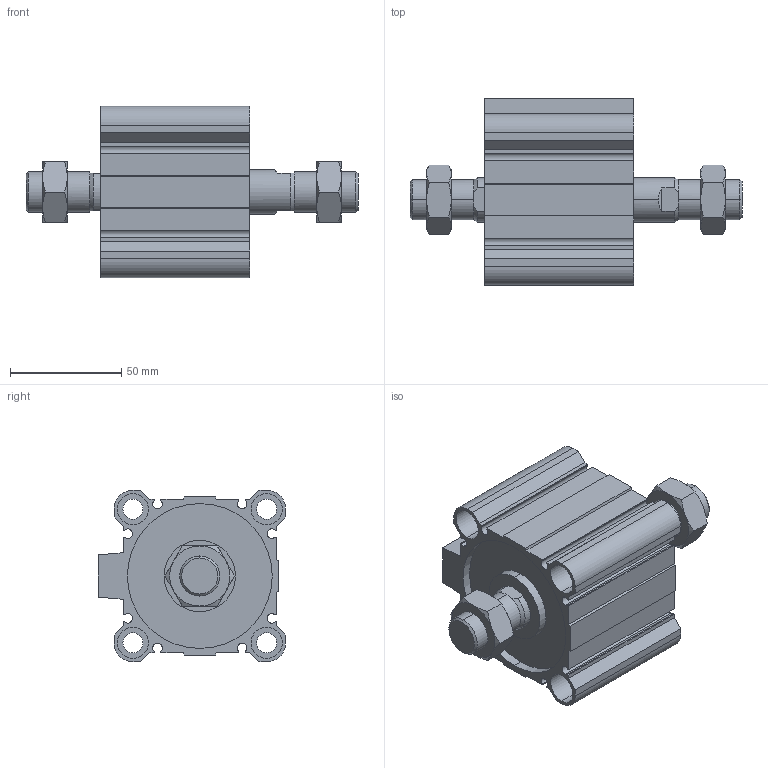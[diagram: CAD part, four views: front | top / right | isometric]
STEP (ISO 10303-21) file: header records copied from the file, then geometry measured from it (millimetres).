
FILE_DESCRIPTION (( 'STEP AP203' ), '1' );
FILE_NAME ('CCMB63-15M-P.STEP', '2020-08-10T11:49:04', ( '' ), ( '' ), 'SwSTEP 2.0', 'SolidWorks 2019', '' );
FILE_SCHEMA (( 'CONFIG_CONTROL_DESIGN' ));
Length unit declared in the file: millimetre
Products named in the file (1): CCMB63-15M-P
Bounding box: 149 x 84 x 77 mm (x, y, z)
Volume: 291686.9 mm3; surface area: 88201.2 mm2
Topology: 4 solids, 4 shells, 232 faces, 570 edges, 364 vertices
Faces by surface type: plane 110, cylinder 78, cone 44
Entity records: 7569 total; most frequent: CARTESIAN_POINT 1939, DIRECTION 1176, ORIENTED_EDGE 1140, EDGE_CURVE 570, AXIS2_PLACEMENT_3D 437, VERTEX_POINT 364, LINE 302, VECTOR 302
